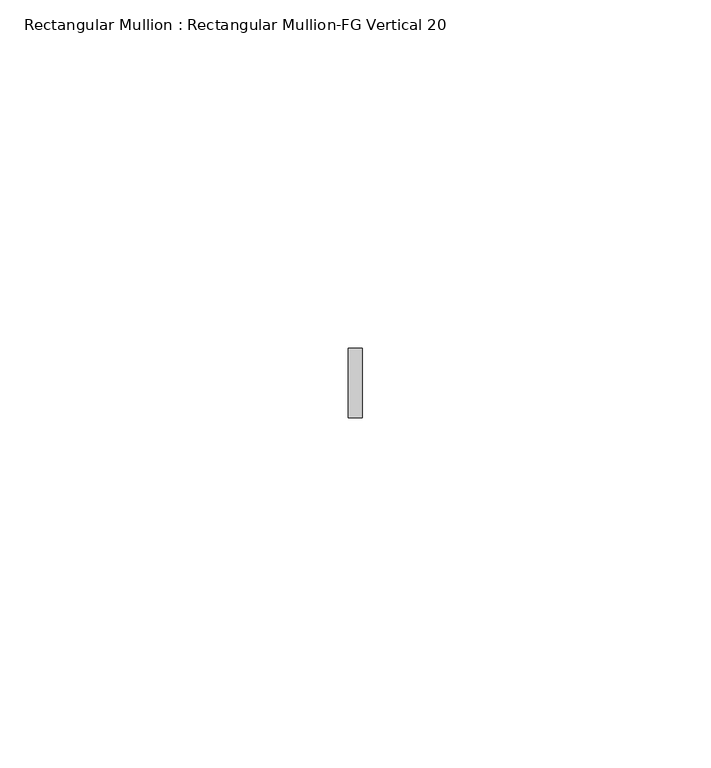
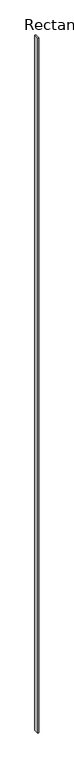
"""IFC4 building model written with IfcOpenShell, lengths in millimetres: member geometry, Rectangular Mullion : Rectangular Mullion-FG Vertical 20."""

from ifc_helpers import new_model, si_unit, frame, origin, place, context, project, spatial, polyline, outline, extrude, source, transform, mapped, element, save


def rectangular_mullion_rectangular_mullion_fg_vertical_20_6439c7f2(model_context):
    return source(origin(), model_context, "Body", "SweptSolid", [
        extrude(outline(polyline([(1.0, -12.4), (-1.0, -12.4), (-1.0, -2.4), (1.0, -2.4), (1.0, -12.4)])), frame((0.0, 0.0, -1417.0033917), z_axis=(0.0, 0.0, 1.0), x_axis=(1.0, 0.0, 0.0)), (0.0, 0.0, 1.0), 1417.0033917),
    ])


if __name__ == "__main__":
    model = new_model("IFC4")
    model_context = context("Model", 3, world=origin())
    ifc_project = project(units=[si_unit("LENGTHUNIT", "METRE", prefix="MILLI")], contexts=[model_context])
    site = spatial("IfcSite", under=ifc_project)
    building = spatial("IfcBuilding", under=site)
    placement = place(None, origin())
    rectangular_mullion_rectangular_mullion_fg_vertical_20_shape = rectangular_mullion_rectangular_mullion_fg_vertical_20_6439c7f2(model_context)
    element("IfcMember", 1, ObjectType="Rectangular Mullion : Rectangular Mullion-FG Vertical 20", at=placement, inside=building, context=model_context, shape_type="MappedRepresentation", body=[
        mapped(rectangular_mullion_rectangular_mullion_fg_vertical_20_shape, transform((0.0, 0.0, 0.0), x_axis=(1.0, 0.0, 0.0), y_axis=(0.0, 1.0, 0.0), z_axis=(0.0, 0.0, 1.0))),
    ])
    save(model, "model.ifc")
